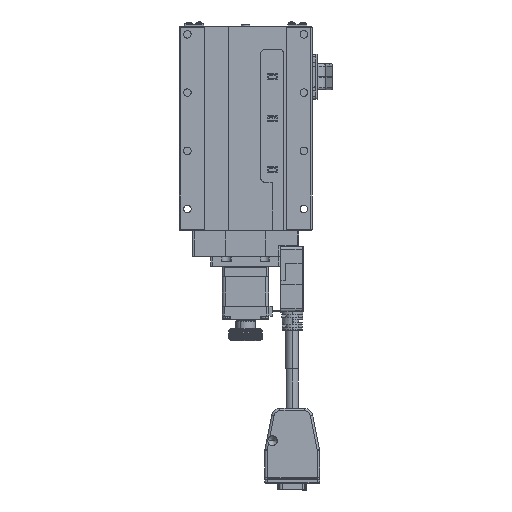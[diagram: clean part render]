
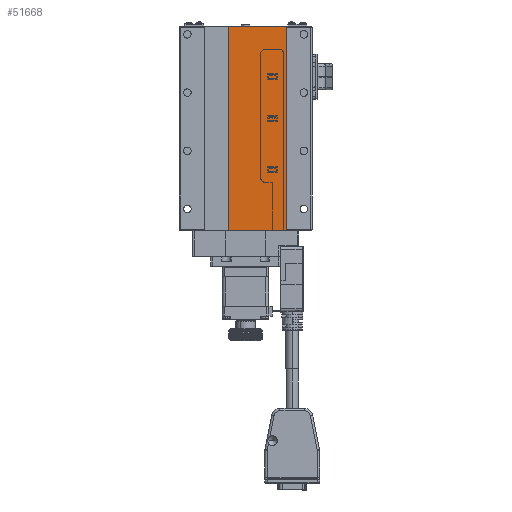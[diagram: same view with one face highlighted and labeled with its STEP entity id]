
A CAD part, front view. The second image highlights one B-rep face of the part: STEP entity #51668.
In plain terms, the highlighted planar face has unit normal (0, -1, 0).
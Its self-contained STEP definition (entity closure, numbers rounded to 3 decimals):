
#6541 = EDGE_CURVE ( 'NONE', #104408, #114559, #159366, .T. ) ;
#8774 = CARTESIAN_POINT ( 'NONE',  ( 24.3, 0.3, -0.2 ) ) ;
#23416 = CARTESIAN_POINT ( 'NONE',  ( 24.3, 0.3, -0.2 ) ) ;
#23698 = CARTESIAN_POINT ( 'NONE',  ( -10.3, 0.3, -122.8 ) ) ;
#30363 = EDGE_CURVE ( 'NONE', #114559, #129861, #100648, .T. ) ;
#36517 = DIRECTION ( 'NONE',  ( 0., 0., -1. ) ) ;
#37309 = ORIENTED_EDGE ( 'NONE', *, *, #6541, .T. ) ;
#43897 = CARTESIAN_POINT ( 'NONE',  ( 24.3, 0.3, -122.8 ) ) ;
#44093 = EDGE_CURVE ( 'NONE', #63465, #104408, #136021, .T. ) ;
#47589 = ORIENTED_EDGE ( 'NONE', *, *, #83893, .T. ) ;
#50151 = VECTOR ( 'NONE', #65832, 1000. ) ;
#50457 = DIRECTION ( 'NONE',  ( 1., 0., 0. ) ) ;
#51668 = ADVANCED_FACE ( 'NONE', ( #62284 ), #114557, .F. ) ;
#51909 = ORIENTED_EDGE ( 'NONE', *, *, #44093, .T. ) ;
#62284 = FACE_OUTER_BOUND ( 'NONE', #78871, .T. ) ;
#63465 = VERTEX_POINT ( 'NONE', #71473 ) ;
#65832 = DIRECTION ( 'NONE',  ( 1., 0., 0. ) ) ;
#71473 = CARTESIAN_POINT ( 'NONE',  ( -10.3, 0.3, -0.2 ) ) ;
#73972 = LINE ( 'NONE', #23416, #90272 ) ;
#74351 = CARTESIAN_POINT ( 'NONE',  ( 24.3, 0.3, -0.2 ) ) ;
#75745 = AXIS2_PLACEMENT_3D ( 'NONE', #165936, #113741, #50457 ) ;
#78871 = EDGE_LOOP ( 'NONE', ( #81913, #47589, #51909, #37309 ) ) ;
#80281 = VECTOR ( 'NONE', #36517, 1000. ) ;
#81913 = ORIENTED_EDGE ( 'NONE', *, *, #30363, .T. ) ;
#83893 = EDGE_CURVE ( 'NONE', #129861, #63465, #73972, .T. ) ;
#90272 = VECTOR ( 'NONE', #101806, 1000. ) ;
#100648 = LINE ( 'NONE', #8774, #141922 ) ;
#101806 = DIRECTION ( 'NONE',  ( -1., 0., 0. ) ) ;
#104408 = VERTEX_POINT ( 'NONE', #23698 ) ;
#110776 = CARTESIAN_POINT ( 'NONE',  ( -10.3, 0.3, -0.2 ) ) ;
#113741 = DIRECTION ( 'NONE',  ( 0., 1., 0. ) ) ;
#114557 = PLANE ( 'NONE',  #75745 ) ;
#114559 = VERTEX_POINT ( 'NONE', #148123 ) ;
#117218 = DIRECTION ( 'NONE',  ( 0., 0., 1. ) ) ;
#129861 = VERTEX_POINT ( 'NONE', #74351 ) ;
#136021 = LINE ( 'NONE', #110776, #80281 ) ;
#141922 = VECTOR ( 'NONE', #117218, 1000. ) ;
#148123 = CARTESIAN_POINT ( 'NONE',  ( 24.3, 0.3, -122.8 ) ) ;
#159366 = LINE ( 'NONE', #43897, #50151 ) ;
#165936 = CARTESIAN_POINT ( 'NONE',  ( 24.3, 0.3, -122.8 ) ) ;
